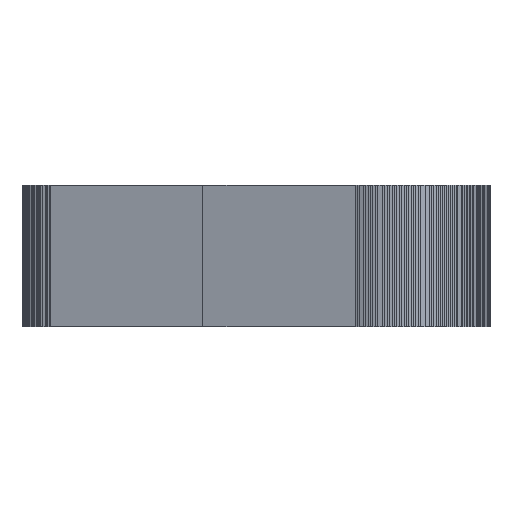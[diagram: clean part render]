
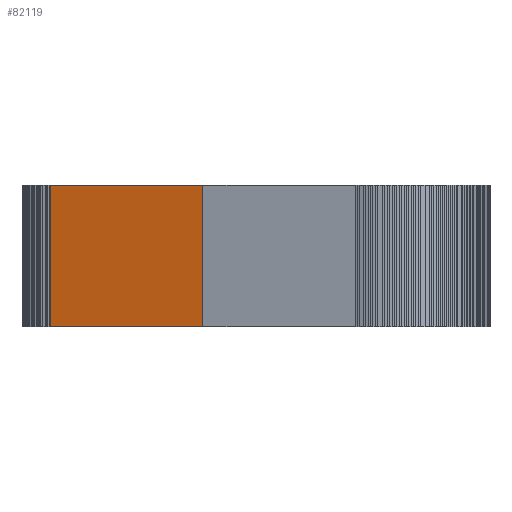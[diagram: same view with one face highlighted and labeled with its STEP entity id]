
A CAD part, left-side view. The second image highlights one B-rep face of the part: STEP entity #82119.
In plain terms, the highlighted planar face has unit normal (-0.959, 0.284, 0).
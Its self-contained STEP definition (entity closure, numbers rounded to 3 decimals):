
#38893 = PLANE('',#38894);
#38894 = AXIS2_PLACEMENT_3D('',#38895,#38896,#38897);
#38895 = CARTESIAN_POINT('',(-42.868,149.905,0.));
#38896 = DIRECTION('',(-0.,-0.,-1.));
#38897 = DIRECTION('',(-1.,0.,0.));
#43889 = VERTEX_POINT('',#43890);
#43890 = CARTESIAN_POINT('',(-65.196,85.815,0.));
#43904 = PLANE('',#43905);
#43905 = AXIS2_PLACEMENT_3D('',#43906,#43907,#43908);
#43906 = CARTESIAN_POINT('',(-75.406,51.338,
    32.757));
#43907 = DIRECTION('',(-0.959,0.284,-0.));
#43908 = DIRECTION('',(-0.284,-0.959,0.));
#43916 = EDGE_CURVE('',#43889,#43917,#43919,.T.);
#43917 = VERTEX_POINT('',#43918);
#43918 = CARTESIAN_POINT('',(-49.182,139.892,0.));
#43919 = SURFACE_CURVE('',#43920,(#43924,#43931),.PCURVE_S1.);
#43920 = LINE('',#43921,#43922);
#43921 = CARTESIAN_POINT('',(-65.196,85.815,0.));
#43922 = VECTOR('',#43923,1.);
#43923 = DIRECTION('',(0.284,0.959,0.));
#43924 = PCURVE('',#38893,#43925);
#43925 = DEFINITIONAL_REPRESENTATION('',(#43926),#43930);
#43926 = LINE('',#43927,#43928);
#43927 = CARTESIAN_POINT('',(22.328,-64.091));
#43928 = VECTOR('',#43929,1.);
#43929 = DIRECTION('',(-0.284,0.959));
#43930 = ( GEOMETRIC_REPRESENTATION_CONTEXT(2) 
PARAMETRIC_REPRESENTATION_CONTEXT() REPRESENTATION_CONTEXT('2D SPACE',''
  ) );
#43931 = PCURVE('',#43932,#43937);
#43932 = PLANE('',#43933);
#43933 = AXIS2_PLACEMENT_3D('',#43934,#43935,#43936);
#43934 = CARTESIAN_POINT('',(-59.392,105.416,
    32.757));
#43935 = DIRECTION('',(-0.959,0.284,-0.));
#43936 = DIRECTION('',(-0.284,-0.959,0.));
#43937 = DEFINITIONAL_REPRESENTATION('',(#43938),#43942);
#43938 = LINE('',#43939,#43940);
#43939 = CARTESIAN_POINT('',(20.442,-32.757));
#43940 = VECTOR('',#43941,1.);
#43941 = DIRECTION('',(-1.,0.));
#43942 = ( GEOMETRIC_REPRESENTATION_CONTEXT(2) 
PARAMETRIC_REPRESENTATION_CONTEXT() REPRESENTATION_CONTEXT('2D SPACE',''
  ) );
#43960 = PLANE('',#43961);
#43961 = AXIS2_PLACEMENT_3D('',#43962,#43963,#43964);
#43962 = CARTESIAN_POINT('',(-49.155,140.004,
    25.114));
#43963 = DIRECTION('',(-0.973,0.23,-0.));
#43964 = DIRECTION('',(-0.23,-0.973,0.));
#56123 = PLANE('',#56124);
#56124 = AXIS2_PLACEMENT_3D('',#56125,#56126,#56127);
#56125 = CARTESIAN_POINT('',(-79.458,4.771,50.));
#56126 = DIRECTION('',(0.,0.,1.));
#56127 = DIRECTION('',(1.,0.,-0.));
#60188 = VERTEX_POINT('',#60189);
#60189 = CARTESIAN_POINT('',(-49.182,139.892,50.));
#60210 = EDGE_CURVE('',#60211,#60188,#60213,.T.);
#60211 = VERTEX_POINT('',#60212);
#60212 = CARTESIAN_POINT('',(-65.196,85.815,50.));
#60213 = SURFACE_CURVE('',#60214,(#60218,#60225),.PCURVE_S1.);
#60214 = LINE('',#60215,#60216);
#60215 = CARTESIAN_POINT('',(-65.196,85.815,50.));
#60216 = VECTOR('',#60217,1.);
#60217 = DIRECTION('',(0.284,0.959,0.));
#60218 = PCURVE('',#56123,#60219);
#60219 = DEFINITIONAL_REPRESENTATION('',(#60220),#60224);
#60220 = LINE('',#60221,#60222);
#60221 = CARTESIAN_POINT('',(14.262,81.044));
#60222 = VECTOR('',#60223,1.);
#60223 = DIRECTION('',(0.284,0.959));
#60224 = ( GEOMETRIC_REPRESENTATION_CONTEXT(2) 
PARAMETRIC_REPRESENTATION_CONTEXT() REPRESENTATION_CONTEXT('2D SPACE',''
  ) );
#60225 = PCURVE('',#43932,#60226);
#60226 = DEFINITIONAL_REPRESENTATION('',(#60227),#60231);
#60227 = LINE('',#60228,#60229);
#60228 = CARTESIAN_POINT('',(20.442,17.243));
#60229 = VECTOR('',#60230,1.);
#60230 = DIRECTION('',(-1.,0.));
#60231 = ( GEOMETRIC_REPRESENTATION_CONTEXT(2) 
PARAMETRIC_REPRESENTATION_CONTEXT() REPRESENTATION_CONTEXT('2D SPACE',''
  ) );
#82096 = EDGE_CURVE('',#60188,#43917,#82097,.T.);
#82097 = SURFACE_CURVE('',#82098,(#82102,#82109),.PCURVE_S1.);
#82098 = LINE('',#82099,#82100);
#82099 = CARTESIAN_POINT('',(-49.182,139.892,50.));
#82100 = VECTOR('',#82101,1.);
#82101 = DIRECTION('',(0.,0.,-1.));
#82102 = PCURVE('',#43960,#82103);
#82103 = DEFINITIONAL_REPRESENTATION('',(#82104),#82108);
#82104 = LINE('',#82105,#82106);
#82105 = CARTESIAN_POINT('',(0.115,24.886));
#82106 = VECTOR('',#82107,1.);
#82107 = DIRECTION('',(-0.,-1.));
#82108 = ( GEOMETRIC_REPRESENTATION_CONTEXT(2) 
PARAMETRIC_REPRESENTATION_CONTEXT() REPRESENTATION_CONTEXT('2D SPACE',''
  ) );
#82109 = PCURVE('',#43932,#82110);
#82110 = DEFINITIONAL_REPRESENTATION('',(#82111),#82115);
#82111 = LINE('',#82112,#82113);
#82112 = CARTESIAN_POINT('',(-35.956,17.243));
#82113 = VECTOR('',#82114,1.);
#82114 = DIRECTION('',(-0.,-1.));
#82115 = ( GEOMETRIC_REPRESENTATION_CONTEXT(2) 
PARAMETRIC_REPRESENTATION_CONTEXT() REPRESENTATION_CONTEXT('2D SPACE',''
  ) );
#82119 = ADVANCED_FACE('',(#82120),#43932,.T.);
#82120 = FACE_BOUND('',#82121,.T.);
#82121 = EDGE_LOOP('',(#82122,#82143,#82144,#82145));
#82122 = ORIENTED_EDGE('',*,*,#82123,.F.);
#82123 = EDGE_CURVE('',#60211,#43889,#82124,.T.);
#82124 = SURFACE_CURVE('',#82125,(#82129,#82136),.PCURVE_S1.);
#82125 = LINE('',#82126,#82127);
#82126 = CARTESIAN_POINT('',(-65.196,85.815,50.));
#82127 = VECTOR('',#82128,1.);
#82128 = DIRECTION('',(0.,0.,-1.));
#82129 = PCURVE('',#43932,#82130);
#82130 = DEFINITIONAL_REPRESENTATION('',(#82131),#82135);
#82131 = LINE('',#82132,#82133);
#82132 = CARTESIAN_POINT('',(20.442,17.243));
#82133 = VECTOR('',#82134,1.);
#82134 = DIRECTION('',(-0.,-1.));
#82135 = ( GEOMETRIC_REPRESENTATION_CONTEXT(2) 
PARAMETRIC_REPRESENTATION_CONTEXT() REPRESENTATION_CONTEXT('2D SPACE',''
  ) );
#82136 = PCURVE('',#43904,#82137);
#82137 = DEFINITIONAL_REPRESENTATION('',(#82138),#82142);
#82138 = LINE('',#82139,#82140);
#82139 = CARTESIAN_POINT('',(-35.956,17.243));
#82140 = VECTOR('',#82141,1.);
#82141 = DIRECTION('',(-0.,-1.));
#82142 = ( GEOMETRIC_REPRESENTATION_CONTEXT(2) 
PARAMETRIC_REPRESENTATION_CONTEXT() REPRESENTATION_CONTEXT('2D SPACE',''
  ) );
#82143 = ORIENTED_EDGE('',*,*,#60210,.T.);
#82144 = ORIENTED_EDGE('',*,*,#82096,.T.);
#82145 = ORIENTED_EDGE('',*,*,#43916,.F.);
